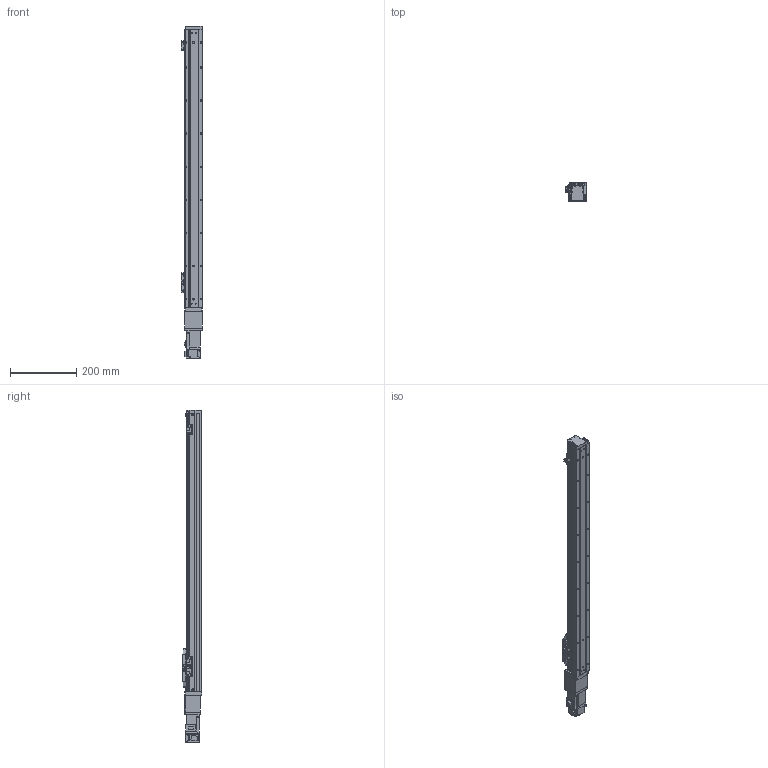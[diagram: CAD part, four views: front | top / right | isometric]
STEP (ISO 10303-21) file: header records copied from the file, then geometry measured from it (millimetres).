
FILE_DESCRIPTION (( 'STEP AP203' ), '1' );
FILE_NAME ('GTH5-700-BC-M10-C4.step', '2022-09-23T00:40:59', ( '微软用户' ), ( '微软中国' ), 'SwSTEP 2.0', 'SolidWorks 2020', '' );
FILE_SCHEMA (( 'CONFIG_CONTROL_DESIGN' ));
Length unit declared in the file: millimetre
Products named in the file (20): GTH50-024; HG-KR13; GBT 70.1-M4×16; GBT 70.1-M2.5×6; GTH5-700-BC-M10-C4; GTH50-003; GTH50-028; GTH50-013; GTH50-022-1; GTH50-023; CTHA60-027; GTH50-006; GBT 70.1-M3℅6; CTHA60-013; GTH50-004; BTH-M3X5X6; GBT96.1-2002 3×0.8; CTHA60-006-2_CTHA60-006-1; GBT 70.3-M3℅6; GTH50-001_700
Assembly tree (60 placements, depth 2):
  GTH5-700-BC-M10-C4
    GTH50-006
    GTH50-004
    GBT 70.3-M3℅6  x6
    BTH-M3X5X6  x8
    GTH50-001_700
    GBT 70.1-M4×16  x8
    GTH50-003
    GTH50-013
    GTH50-023  x3
    GBT 70.1-M3℅6  x12
    GBT96.1-2002 3×0.8  x6
    GTH50-024  x3
    GBT 70.1-M2.5×6  x2
    GTH50-028  x2
    GTH50-022-1
    CTHA60-027
    CTHA60-013
    CTHA60-006-2_CTHA60-006-1
    HG-KR13
Bounding box: 63.8 x 60 x 1002.6 mm (x, y, z)
Volume: 2078128.2 mm3; surface area: 321131.1 mm2
Topology: 62 solids, 62 shells, 2057 faces, 4728 edges, 2886 vertices
Faces by surface type: plane 1105, cylinder 551, cone 235, torus 158, sphere 8
Entity records: 34403 total; most frequent: DIRECTION 5563, CARTESIAN_POINT 5439, ORIENTED_EDGE 5142, EDGE_CURVE 2571, AXIS2_PLACEMENT_3D 1916, VECTOR 1731, LINE 1731, VERTEX_POINT 1626
